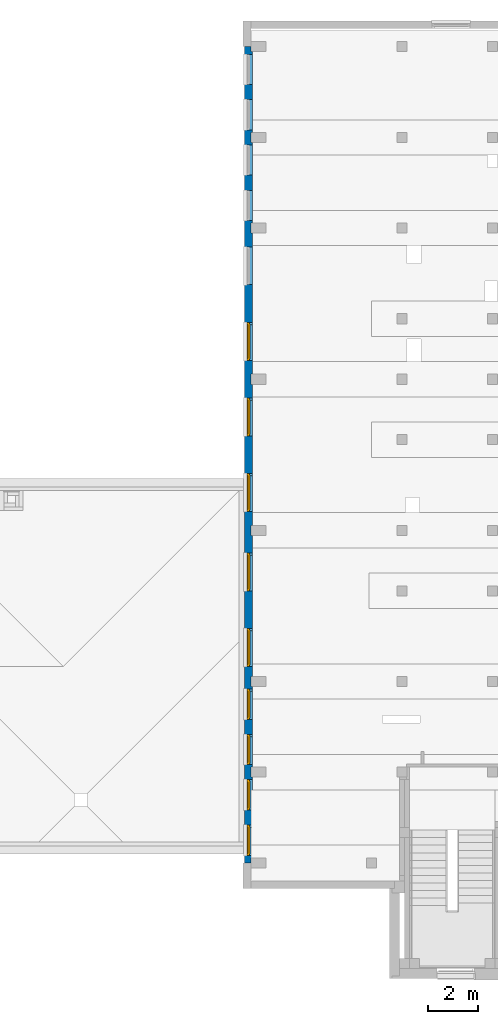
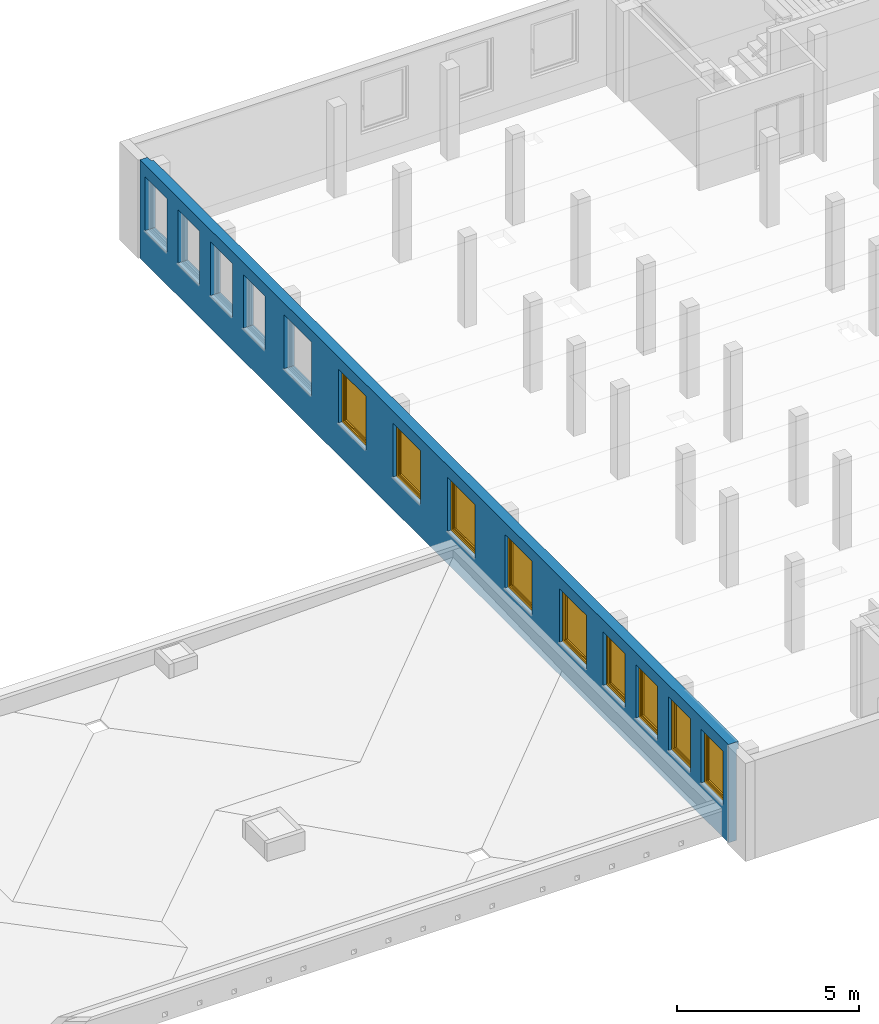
# One storey, part 9 of 27: 9 windows, 1 wall, 14 openings.
"""IFC4 building model written with IfcOpenShell, lengths in metres."""

from ifc_helpers import new_model, entity, si_unit, converted_unit, derived_unit, frame, origin, origin_with_axes, place, context, subcontext, project, spatial, polyline, outline, extrude, clip, bounded_halfspace, closed_shell, open_shell, surface_model, source, transform, mapped, material, layer, layer_set, layer_usage, element, fill, save


model = new_model("IFC4")

# Units and contexts
model_context = context("Model", 3, precision=1e-05, world=origin())
body_context = subcontext(model_context, "Body", "Model", "MODEL_VIEW")
ifc_project = project(units=[si_unit("LENGTHUNIT", "METRE"), si_unit("AREAUNIT", "SQUARE_METRE"), si_unit("VOLUMEUNIT", "CUBIC_METRE"), si_unit("MASSUNIT", "GRAM", prefix="KILO"), converted_unit("PLANEANGLEUNIT", "DEGREE", entity("IfcPlaneAngleMeasure", 0.0174532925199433), si_unit("PLANEANGLEUNIT", "RADIAN"), dimensions=[0, 0, 0, 0, 0, 0, 0]), derived_unit("THERMALTRANSMITTANCEUNIT", [(si_unit("POWERUNIT", "WATT"), 1), (si_unit("THERMODYNAMICTEMPERATUREUNIT", "KELVIN"), -1), (si_unit("LENGTHUNIT", "METRE"), -2)]), derived_unit("VOLUMETRICFLOWRATEUNIT", [(si_unit("LENGTHUNIT", "METRE"), 3), (converted_unit("TIMEUNIT", "hour", entity("IfcTimeMeasure", 3600.0), si_unit("TIMEUNIT", "SECOND"), dimensions=[0, 0, 1, 0, 0, 0, 0]), -1), (si_unit("LENGTHUNIT", "METRE"), -1)])], contexts=[model_context])

# Site, building, storey
site_placement = place(None, origin())
site = spatial("IfcSite", under=ifc_project, at=site_placement, Name="3. ASŘ", CompositionType="ELEMENT")
building_placement = place(site_placement, origin())
building = spatial("IfcBuilding", under=site, at=building_placement, Name="Pavilon C", CompositionType="ELEMENT")
storey_placement = place(building_placement, frame((0.0, 0.0, 7.2)))
storey = spatial("IfcBuildingStorey", under=building, at=storey_placement, Name="Půdorys 3.NP", CompositionType="ELEMENT", Elevation=7.2)

# Wall, openings, windows
ifc_material = material(Name="ZELEZOBETONOVÁ KCE")
ifc_layer = layer(ifc_material, 0.32)
ifc_layer_set = layer_set([ifc_layer])
ifc_layer_usage = layer_usage(ifc_layer_set, "AXIS2", "POSITIVE", 0.0)
wall_placement = place(storey_placement, frame((24.5, 32.4, -0.1), z_axis=(0.0, 0.0, 1.0), x_axis=(-2.24566593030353e-16, -1.0, 0.0)))
wall = element("IfcWall", 1, at=wall_placement, inside=storey, material=ifc_layer_usage, Name="ZELEZOBETONOVÁ KCE", context=body_context, shape_type="Clipping", body=[
    clip(clip(clip(clip(clip(clip(clip(extrude(outline(polyline([(-32.4, 0.0), (-7.18613097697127e-17, -1.61376495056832e-32), (-7.18613097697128e-17, 0.32), (-32.2, 0.32), (-32.2, 0.25), (-32.4, 0.25), (-32.4, 0.0)])), frame((32.4, 0.0, 0.0), z_axis=(0.0, 0.0, 1.0), x_axis=(1.0, 0.0, 0.0)), (0.0, 0.0, 1.0), 3.3), bounded_halfspace(frame((7.2, 0.285000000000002, 3.05), z_axis=(0.0, 0.0, 1.0), x_axis=(2.24566593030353e-16, -1.0, 0.0)), True, origin_with_axes(), polyline([(7.0, 0.320000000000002), (7.0, 0.250000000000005), (7.4, 0.250000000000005), (7.4, 0.320000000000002), (7.0, 0.320000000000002)]))), bounded_halfspace(frame((3.6, 0.285000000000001, 3.05), z_axis=(0.0, 0.0, 1.0), x_axis=(2.24566593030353e-16, -1.0, 0.0)), True, origin_with_axes(), polyline([(3.4, 0.320000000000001), (3.4, 0.250000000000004), (3.8, 0.250000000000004), (3.8, 0.320000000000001), (3.4, 0.320000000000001)]))), bounded_halfspace(frame((19.2, 0.285000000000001, 3.05), z_axis=(0.0, 0.0, 1.0), x_axis=(2.24566593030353e-16, -1.0, 0.0)), True, origin_with_axes(), polyline([(19.0, 0.320000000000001), (19.0, 0.249999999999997), (19.4, 0.249999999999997), (19.4, 0.320000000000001), (19.0, 0.320000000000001)]))), bounded_halfspace(frame((25.2, 0.284999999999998, 3.05), z_axis=(0.0, 0.0, 1.0), x_axis=(2.24566593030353e-16, -1.0, 0.0)), True, origin_with_axes(), polyline([(25.0, 0.319999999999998), (25.0, 0.249999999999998), (25.4, 0.249999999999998), (25.4, 0.319999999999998), (25.0, 0.319999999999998)]))), bounded_halfspace(frame((28.8, 0.284999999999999, 3.05), z_axis=(0.0, 0.0, 1.0), x_axis=(2.24566593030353e-16, -1.0, 0.0)), True, origin_with_axes(), polyline([(28.6, 0.319999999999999), (28.6, 0.249999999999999), (29.0, 0.249999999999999), (29.0, 0.319999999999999), (28.6, 0.319999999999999)]))), bounded_halfspace(frame((32.3, 0.285, 3.05), z_axis=(0.0, 0.0, 1.0), x_axis=(2.24566593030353e-16, -1.0, 0.0)), True, origin_with_axes(), polyline([(32.2, 0.32), (32.2, 0.25), (32.4, 0.25), (32.4, 0.32), (32.2, 0.32)]))), bounded_halfspace(frame((13.2, 0.285000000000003, 3.05), z_axis=(0.0, 0.0, 1.0), x_axis=(2.24566593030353e-16, -1.0, 0.0)), True, origin_with_axes(), polyline([(13.0, 0.319999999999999), (13.0, 0.250000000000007), (13.4, 0.250000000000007), (13.4, 0.319999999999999), (13.0, 0.319999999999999)]))),
])
opening_1_placement = place(wall_placement, frame((25.5, -1.54950949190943e-15, 1.1), z_axis=(0.0, 1.0, 0.0), x_axis=(0.0, 0.0, 1.0)))
opening_1 = element("IfcOpeningElement", 2, at=opening_1_placement, cuts=wall, Name="Okenní otvor", ObjectType="Opening", context=body_context, shape_type="SweptSolid", body=[
    extrude(outline(polyline([(0.0, 1.2), (1.8, 1.2), (1.8, 0.0), (0.0, 0.0), (0.0, 1.2)])), origin_with_axes(), (0.0, 0.0, 1.0), 0.32),
])
opening_2_placement = place(wall_placement, frame((27.3, -1.1452896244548e-15, 1.1), z_axis=(0.0, 1.0, 0.0), x_axis=(0.0, 0.0, 1.0)))
opening_2 = element("IfcOpeningElement", 3, at=opening_2_placement, cuts=wall, Name="Okenní otvor", ObjectType="Opening", context=body_context, shape_type="SweptSolid", body=[
    extrude(outline(polyline([(0.0, 1.2), (1.8, 1.2), (1.8, 0.0), (0.0, 0.0), (0.0, 1.2)])), origin_with_axes(), (0.0, 0.0, 1.0), 0.32),
])
opening_3_placement = place(wall_placement, frame((29.1, -7.41069757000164e-16, 1.1), z_axis=(0.0, 1.0, 0.0), x_axis=(0.0, 0.0, 1.0)))
opening_3 = element("IfcOpeningElement", 4, at=opening_3_placement, cuts=wall, Name="Okenní otvor", ObjectType="Opening", context=body_context, shape_type="SweptSolid", body=[
    extrude(outline(polyline([(0.0, 1.2), (1.8, 1.2), (1.8, 0.0), (0.0, 0.0), (0.0, 1.2)])), origin_with_axes(), (0.0, 0.0, 1.0), 0.32),
])
opening_4_placement = place(wall_placement, frame((30.9, -3.36849889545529e-16, 1.1), z_axis=(0.0, 1.0, 0.0), x_axis=(0.0, 0.0, 1.0)))
opening_4 = element("IfcOpeningElement", 5, at=opening_4_placement, cuts=wall, Name="Okenní otvor", ObjectType="Opening", context=body_context, shape_type="SweptSolid", body=[
    extrude(outline(polyline([(0.0, 1.2), (1.8, 1.2), (1.8, 0.0), (0.0, 0.0), (0.0, 1.2)])), origin_with_axes(), (0.0, 0.0, 1.0), 0.32),
])
opening_5_placement = place(wall_placement, frame((13.95, -5.05274834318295e-16, 1.1), z_axis=(0.0, 1.0, 0.0), x_axis=(0.0, 0.0, 1.0)))
opening_5 = element("IfcOpeningElement", 6, at=opening_5_placement, cuts=wall, Name="Okenní otvor", ObjectType="Opening", context=body_context, shape_type="SweptSolid", body=[
    extrude(outline(polyline([(0.0, 1.5), (1.8, 1.5), (1.8, 0.0), (0.0, 0.0), (0.0, 1.5)])), origin_with_axes(), (0.0, 0.0, 1.0), 0.32),
])
opening_6_placement = place(wall_placement, frame((10.95, -1.17897461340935e-15, 1.1), z_axis=(0.0, 1.0, 0.0), x_axis=(0.0, 0.0, 1.0)))
opening_6 = element("IfcOpeningElement", 7, at=opening_6_placement, cuts=wall, Name="Okenní otvor", ObjectType="Opening", context=body_context, shape_type="SweptSolid", body=[
    extrude(outline(polyline([(0.0, 1.5), (1.8, 1.5), (1.8, 0.0), (0.0, 0.0), (0.0, 1.5)])), origin_with_axes(), (0.0, 0.0, 1.0), 0.32),
])
opening_7_placement = place(wall_placement, frame((16.95, 1.68424944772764e-16, 1.1), z_axis=(0.0, 1.0, 0.0), x_axis=(0.0, 0.0, 1.0)))
opening_7 = element("IfcOpeningElement", 8, at=opening_7_placement, cuts=wall, Name="Okenní otvor", ObjectType="Opening", context=body_context, shape_type="SweptSolid", body=[
    extrude(outline(polyline([(0.0, 1.5), (1.8, 1.5), (1.8, 0.0), (0.0, 0.0), (0.0, 1.5)])), origin_with_axes(), (0.0, 0.0, 1.0), 0.32),
])
opening_8_placement = place(wall_placement, frame((20.1, 8.75809712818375e-16, 1.1), z_axis=(0.0, 1.0, 0.0), x_axis=(0.0, 0.0, 1.0)))
opening_8 = element("IfcOpeningElement", 9, at=opening_8_placement, cuts=wall, Name="Okenní otvor", ObjectType="Opening", context=body_context, shape_type="SweptSolid", body=[
    extrude(outline(polyline([(0.0, 1.5), (1.8, 1.5), (1.8, 0.0), (0.0, 0.0), (0.0, 1.5)])), origin_with_axes(), (0.0, 0.0, 1.0), 0.32),
])
opening_9_placement = place(wall_placement, frame((23.1, -2.08846931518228e-15, 1.1), z_axis=(0.0, 1.0, 0.0), x_axis=(0.0, 0.0, 1.0)))
opening_9 = element("IfcOpeningElement", 10, at=opening_9_placement, cuts=wall, Name="Okenní otvor", ObjectType="Opening", context=body_context, shape_type="SweptSolid", body=[
    extrude(outline(polyline([(0.0, 1.5), (1.8, 1.5), (1.8, 0.0), (0.0, 0.0), (0.0, 1.5)])), origin_with_axes(), (0.0, 0.0, 1.0), 0.320000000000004),
])
opening_10_placement = place(wall_placement, frame((7.95, -1.85267439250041e-15, 1.1), z_axis=(0.0, 1.0, 0.0), x_axis=(0.0, 0.0, 1.0)))
element("IfcOpeningElement", 11, at=opening_10_placement, cuts=wall, Name="Okenní otvor", ObjectType="Opening", context=body_context, shape_type="SweptSolid", body=[
    extrude(outline(polyline([(0.0, 1.5), (1.8, 1.5), (1.8, 0.0), (0.0, 0.0), (0.0, 1.5)])), origin_with_axes(), (0.0, 0.0, 1.0), 0.320000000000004),
])
opening_11_placement = place(wall_placement, frame((2.10000000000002, 4.71589845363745e-16, 1.1), z_axis=(0.0, 1.0, 0.0), x_axis=(0.0, 0.0, 1.0)))
element("IfcOpeningElement", 12, at=opening_11_placement, cuts=wall, Name="Okenní otvor", ObjectType="Opening", context=body_context, shape_type="SweptSolid", body=[
    extrude(outline(polyline([(0.0, 1.2), (1.8, 1.2), (1.8, 0.0), (0.0, 0.0), (0.0, 1.2)])), origin_with_axes(), (0.0, 0.0, 1.0), 0.32),
])
opening_12_placement = place(wall_placement, frame((3.90000000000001, 8.75809712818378e-16, 1.1), z_axis=(0.0, 1.0, 0.0), x_axis=(0.0, 0.0, 1.0)))
element("IfcOpeningElement", 13, at=opening_12_placement, cuts=wall, Name="Okenní otvor", ObjectType="Opening", context=body_context, shape_type="SweptSolid", body=[
    extrude(outline(polyline([(0.0, 1.2), (1.8, 1.2), (1.8, 0.0), (0.0, 0.0), (0.0, 1.2)])), origin_with_axes(), (0.0, 0.0, 1.0), 0.32),
])
opening_13_placement = place(wall_placement, frame((5.7, 1.28002958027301e-15, 1.1), z_axis=(0.0, 1.0, 0.0), x_axis=(0.0, 0.0, 1.0)))
element("IfcOpeningElement", 14, at=opening_13_placement, cuts=wall, Name="Okenní otvor", ObjectType="Opening", context=body_context, shape_type="SweptSolid", body=[
    extrude(outline(polyline([(0.0, 1.2), (1.8, 1.2), (1.8, 0.0), (0.0, 0.0), (0.0, 1.2)])), origin_with_axes(), (0.0, 0.0, 1.0), 0.32),
])
opening_14_placement = place(wall_placement, frame((0.300000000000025, 6.73699779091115e-17, 1.1), z_axis=(-1.77635683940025e-16, 1.0, 0.0), x_axis=(0.0, 0.0, 1.0)))
element("IfcOpeningElement", 15, at=opening_14_placement, cuts=wall, Name="Okenní otvor", ObjectType="Opening", context=body_context, shape_type="SweptSolid", body=[
    extrude(outline(polyline([(0.0, 1.2), (1.8, 1.2), (1.8, 0.0), (0.0, 0.0), (0.0, 1.2)])), origin_with_axes(), (0.0, 0.0, 1.0), 0.32),
])
shared_shape_1 = source(origin_with_axes(), body_context, "Body", "SurfaceModel", [
    surface_model("IfcShellBasedSurfaceModel", [(0.0, 0.182, 1.8), (0.0, 0.182, -5.63337527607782e-18), (0.08, 0.182, -5.63337527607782e-18), (0.08, 0.182, 1.8), (0.0, 0.0899999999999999, 5.63337527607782e-18), (0.0, 0.0900000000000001, 1.8), (0.08, 0.0900000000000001, 1.8), (0.08, 0.0899999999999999, 5.63337527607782e-18)], [closed_shell([[[0, 1, 2, 3]], [[4, 5, 6, 7]], [[1, 0, 5, 4]], [[2, 1, 4, 7]], [[3, 2, 7, 6]], [[0, 3, 6, 5]]], orient=[[False], [False], [False], [False], [False], [False]])]),
    surface_model("IfcShellBasedSurfaceModel", [(1.12, 0.182, 1.8), (1.12, 0.182, -5.63337527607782e-18), (1.2, 0.182, -5.63337527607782e-18), (1.2, 0.182, 1.8), (1.12, 0.0899999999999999, 5.63337527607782e-18), (1.12, 0.0900000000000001, 1.8), (1.2, 0.0900000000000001, 1.8), (1.2, 0.0899999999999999, 5.63337527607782e-18)], [closed_shell([[[0, 1, 2, 3]], [[4, 5, 6, 7]], [[1, 0, 5, 4]], [[2, 1, 4, 7]], [[3, 2, 7, 6]], [[0, 3, 6, 5]]], orient=[[False], [False], [False], [False], [False], [False]])]),
    surface_model("IfcShellBasedSurfaceModel", [(0.08, 0.182, 0.08), (0.08, 0.182, -5.63337527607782e-18), (1.12, 0.182, -5.63337527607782e-18), (1.12, 0.182, 0.08), (0.08, 0.0899999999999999, 5.63337527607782e-18), (0.08, 0.0899999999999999, 0.08), (1.12, 0.0899999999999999, 0.08), (1.12, 0.0899999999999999, 5.63337527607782e-18)], [closed_shell([[[0, 1, 2, 3]], [[4, 5, 6, 7]], [[1, 0, 5, 4]], [[2, 1, 4, 7]], [[3, 2, 7, 6]], [[0, 3, 6, 5]]], orient=[[False], [False], [False], [False], [False], [False]])]),
    surface_model("IfcShellBasedSurfaceModel", [(0.08, 0.182, 1.8), (0.08, 0.182, 1.72), (1.12, 0.182, 1.72), (1.12, 0.182, 1.8), (0.08, 0.0900000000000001, 1.72), (0.08, 0.0900000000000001, 1.8), (1.12, 0.0900000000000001, 1.8), (1.12, 0.0900000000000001, 1.72)], [closed_shell([[[0, 1, 2, 3]], [[4, 5, 6, 7]], [[1, 0, 5, 4]], [[2, 1, 4, 7]], [[3, 2, 7, 6]], [[0, 3, 6, 5]]], orient=[[False], [False], [False], [False], [False], [False]])]),
    surface_model("IfcShellBasedSurfaceModel", [(0.05, 0.145, 1.75), (0.05, 0.145, 0.05), (0.13, 0.145, 0.05), (0.13, 0.145, 1.75), (0.05, 0.0599999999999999, 0.05), (0.05, 0.0600000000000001, 1.75), (0.13, 0.0600000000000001, 1.75), (0.13, 0.0599999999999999, 0.05)], [closed_shell([[[0, 1, 2, 3]], [[4, 5, 6, 7]], [[1, 0, 5, 4]], [[2, 1, 4, 7]], [[3, 2, 7, 6]], [[0, 3, 6, 5]]], orient=[[False], [False], [False], [False], [False], [False]])]),
    surface_model("IfcShellBasedSurfaceModel", [(1.07, 0.145, 1.75), (1.07, 0.145, 0.05), (1.15, 0.145, 0.05), (1.15, 0.145, 1.75), (1.07, 0.0599999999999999, 0.05), (1.07, 0.0600000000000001, 1.75), (1.15, 0.0600000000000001, 1.75), (1.15, 0.0599999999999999, 0.05)], [closed_shell([[[0, 1, 2, 3]], [[4, 5, 6, 7]], [[1, 0, 5, 4]], [[2, 1, 4, 7]], [[3, 2, 7, 6]], [[0, 3, 6, 5]]], orient=[[False], [False], [False], [False], [False], [False]])]),
    surface_model("IfcShellBasedSurfaceModel", [(0.13, 0.145, 0.13), (0.13, 0.145, 0.05), (1.07, 0.145, 0.05), (1.07, 0.145, 0.13), (0.13, 0.0599999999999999, 0.05), (0.13, 0.0599999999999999, 0.13), (1.07, 0.0599999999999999, 0.13), (1.07, 0.0599999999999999, 0.05)], [closed_shell([[[0, 1, 2, 3]], [[4, 5, 6, 7]], [[1, 0, 5, 4]], [[2, 1, 4, 7]], [[3, 2, 7, 6]], [[0, 3, 6, 5]]], orient=[[False], [False], [False], [False], [False], [False]])]),
    surface_model("IfcShellBasedSurfaceModel", [(0.13, 0.145, 1.75), (0.13, 0.145, 1.67), (1.07, 0.145, 1.67), (1.07, 0.145, 1.75), (0.13, 0.0600000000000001, 1.67), (0.13, 0.0600000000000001, 1.75), (1.07, 0.0600000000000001, 1.75), (1.07, 0.0600000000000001, 1.67)], [closed_shell([[[0, 1, 2, 3]], [[4, 5, 6, 7]], [[1, 0, 5, 4]], [[2, 1, 4, 7]], [[3, 2, 7, 6]], [[0, 3, 6, 5]]], orient=[[False], [False], [False], [False], [False], [False]])]),
    surface_model("IfcShellBasedSurfaceModel", [(1.0975, 0.06, 0.92), (1.0975, 0.06, 0.88), (1.1225, 0.06, 0.88), (1.1225, 0.06, 0.92), (1.0975, 0.05, 0.88), (1.0975, 0.05, 0.92), (1.1225, 0.05, 0.92), (1.1225, 0.05, 0.88)], [closed_shell([[[0, 1, 2, 3]], [[4, 5, 6, 7]], [[1, 0, 5, 4]], [[2, 1, 4, 7]], [[3, 2, 7, 6]], [[0, 3, 6, 5]]], orient=[[False], [False], [False], [False], [False], [False]])]),
    surface_model("IfcShellBasedSurfaceModel", [(1.12, 0.05, 0.9), (1.11866025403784, 0.05, 0.905), (1.115, 0.05, 0.908660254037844), (1.11, 0.05, 0.91), (1.105, 0.05, 0.908660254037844), (1.10133974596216, 0.05, 0.905), (1.1, 0.05, 0.9), (1.10133974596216, 0.05, 0.895), (1.105, 0.05, 0.891339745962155), (1.11, 0.05, 0.89), (1.115, 0.05, 0.891339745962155), (1.11866025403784, 0.05, 0.895), (1.12, 0.01, 0.9), (1.11866025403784, 0.00500000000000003, 0.905), (1.115, 0.00133974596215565, 0.908660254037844), (1.11, 2.8421709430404e-17, 0.91), (1.105, 0.00133974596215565, 0.908660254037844), (1.10133974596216, 0.00500000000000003, 0.905), (1.1, 0.01, 0.9), (1.10133974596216, 0.015, 0.895), (1.105, 0.0186602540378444, 0.891339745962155), (1.11, 0.02, 0.89), (1.115, 0.0186602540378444, 0.891339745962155), (1.11866025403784, 0.015, 0.895), (1.12, 0.01, 0.785), (1.11866025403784, 0.005, 0.785), (1.115, 0.00133974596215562, 0.785), (1.11, 0.0, 0.785), (1.105, 0.00133974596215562, 0.785), (1.10133974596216, 0.005, 0.785), (1.1, 0.01, 0.785), (1.10133974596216, 0.015, 0.785), (1.105, 0.0186602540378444, 0.785), (1.11, 0.02, 0.785), (1.115, 0.0186602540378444, 0.785), (1.11866025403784, 0.015, 0.785)], [open_shell([[[0, 1, 2, 3, 4, 5, 6, 7, 8, 9, 10, 11]], [[0, 12, 13, 1]], [[1, 13, 14, 2]], [[2, 14, 15, 3]], [[3, 15, 16, 4]], [[4, 16, 17, 5]], [[5, 17, 18, 6]], [[6, 18, 19, 7]], [[7, 19, 20, 8]], [[8, 20, 21, 9]], [[9, 21, 22, 10]], [[10, 22, 23, 11]], [[11, 23, 12, 0]], [[12, 24, 25, 13]], [[13, 25, 26, 14]], [[14, 26, 27, 15]], [[15, 27, 28, 16]], [[16, 28, 29, 17]], [[17, 29, 30, 18]], [[18, 30, 31, 19]], [[19, 31, 32, 20]], [[20, 32, 33, 21]], [[21, 33, 34, 22]], [[22, 34, 35, 23]], [[23, 35, 24, 12]]], orient=[[False], [False], [False], [False], [False], [False], [False], [False], [False], [False], [False], [False], [False], [False], [False], [False], [False], [False], [False], [False], [False], [False], [False], [False], [False]])]),
    surface_model("IfcShellBasedSurfaceModel", [(0.13, 0.1025, 0.13), (1.07, 0.1025, 0.13), (1.07, 0.1025, 1.67), (0.13, 0.1025, 1.67)], [open_shell([[[0, 1, 2, 3]]], orient=[[False]])]),
])
window_1_placement = place(opening_1_placement, frame((0.0, 1.20000000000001, 0.281999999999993), z_axis=(1.0, 0.0, 0.0), x_axis=(0.0, -1.0, -1.02101913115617e-16)))
window_1 = element("IfcWindow", 16, at=window_1_placement, inside=storey, Name="O06", OverallHeight=1.8, OverallWidth=1.2, PartitioningType="USERDEFINED", PredefinedType="WINDOW", context=body_context, shape_type="MappedRepresentation", body=[
    mapped(shared_shape_1, transform((0.0, 0.0, 0.0), x_axis=(1.0, 0.0, 0.0), y_axis=(0.0, 1.0, 0.0), z_axis=(0.0, 0.0, 1.0), scale=1.0)),
])
fill(opening_1, window_1)
window_2_placement = place(opening_2_placement, frame((0.0, 1.2, 0.281999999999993), z_axis=(1.0, 0.0, 0.0), x_axis=(0.0, -1.0, -1.02101913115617e-16)))
window_2 = element("IfcWindow", 17, at=window_2_placement, inside=storey, Name="O06", OverallHeight=1.8, OverallWidth=1.2, PartitioningType="USERDEFINED", PredefinedType="WINDOW", context=body_context, shape_type="MappedRepresentation", body=[
    mapped(shared_shape_1, transform((0.0, 0.0, 0.0), x_axis=(1.0, 0.0, 0.0), y_axis=(0.0, 1.0, 0.0), z_axis=(0.0, 0.0, 1.0), scale=1.0)),
])
fill(opening_2, window_2)
window_3_placement = place(opening_3_placement, frame((0.0, 1.2, 0.281999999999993), z_axis=(1.0, 0.0, 0.0), x_axis=(0.0, -1.0, -1.02101913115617e-16)))
window_3 = element("IfcWindow", 18, at=window_3_placement, inside=storey, Name="O06", OverallHeight=1.8, OverallWidth=1.2, PartitioningType="USERDEFINED", PredefinedType="WINDOW", context=body_context, shape_type="MappedRepresentation", body=[
    mapped(shared_shape_1, transform((0.0, 0.0, 0.0), x_axis=(1.0, 0.0, 0.0), y_axis=(0.0, 1.0, 0.0), z_axis=(0.0, 0.0, 1.0), scale=1.0)),
])
fill(opening_3, window_3)
window_4_placement = place(opening_4_placement, frame((0.0, 1.2, 0.281999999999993), z_axis=(1.0, 0.0, 0.0), x_axis=(0.0, -1.0, -1.02101913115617e-16)))
window_4 = element("IfcWindow", 19, at=window_4_placement, inside=storey, Name="O06", OverallHeight=1.8, OverallWidth=1.2, PartitioningType="USERDEFINED", PredefinedType="WINDOW", context=body_context, shape_type="MappedRepresentation", body=[
    mapped(shared_shape_1, transform((0.0, 0.0, 0.0), x_axis=(1.0, 0.0, 0.0), y_axis=(0.0, 1.0, 0.0), z_axis=(0.0, 0.0, 1.0), scale=1.0)),
])
fill(opening_4, window_4)
shared_shape_2 = source(origin_with_axes(), body_context, "Body", "SurfaceModel", [
    surface_model("IfcShellBasedSurfaceModel", [(0.0, 0.182, 1.8), (0.0, 0.182, -5.63337527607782e-18), (0.08, 0.182, -5.63337527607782e-18), (0.08, 0.182, 1.8), (0.0, 0.0899999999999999, 5.63337527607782e-18), (0.0, 0.0900000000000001, 1.8), (0.08, 0.0900000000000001, 1.8), (0.08, 0.0899999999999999, 5.63337527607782e-18)], [closed_shell([[[0, 1, 2, 3]], [[4, 5, 6, 7]], [[1, 0, 5, 4]], [[2, 1, 4, 7]], [[3, 2, 7, 6]], [[0, 3, 6, 5]]], orient=[[False], [False], [False], [False], [False], [False]])]),
    surface_model("IfcShellBasedSurfaceModel", [(1.42, 0.182, 1.8), (1.42, 0.182, -5.63337527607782e-18), (1.5, 0.182, -5.63337527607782e-18), (1.5, 0.182, 1.8), (1.42, 0.0899999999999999, 5.63337527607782e-18), (1.42, 0.0900000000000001, 1.8), (1.5, 0.0900000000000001, 1.8), (1.5, 0.0899999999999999, 5.63337527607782e-18)], [closed_shell([[[0, 1, 2, 3]], [[4, 5, 6, 7]], [[1, 0, 5, 4]], [[2, 1, 4, 7]], [[3, 2, 7, 6]], [[0, 3, 6, 5]]], orient=[[False], [False], [False], [False], [False], [False]])]),
    surface_model("IfcShellBasedSurfaceModel", [(0.08, 0.182, 0.08), (0.08, 0.182, -5.63337527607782e-18), (1.42, 0.182, -5.63337527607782e-18), (1.42, 0.182, 0.08), (0.08, 0.0899999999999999, 5.63337527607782e-18), (0.08, 0.0899999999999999, 0.08), (1.42, 0.0899999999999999, 0.08), (1.42, 0.0899999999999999, 5.63337527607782e-18)], [closed_shell([[[0, 1, 2, 3]], [[4, 5, 6, 7]], [[1, 0, 5, 4]], [[2, 1, 4, 7]], [[3, 2, 7, 6]], [[0, 3, 6, 5]]], orient=[[False], [False], [False], [False], [False], [False]])]),
    surface_model("IfcShellBasedSurfaceModel", [(0.08, 0.182, 1.8), (0.08, 0.182, 1.72), (1.42, 0.182, 1.72), (1.42, 0.182, 1.8), (0.08, 0.0900000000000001, 1.72), (0.08, 0.0900000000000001, 1.8), (1.42, 0.0900000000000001, 1.8), (1.42, 0.0900000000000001, 1.72)], [closed_shell([[[0, 1, 2, 3]], [[4, 5, 6, 7]], [[1, 0, 5, 4]], [[2, 1, 4, 7]], [[3, 2, 7, 6]], [[0, 3, 6, 5]]], orient=[[False], [False], [False], [False], [False], [False]])]),
    surface_model("IfcShellBasedSurfaceModel", [(0.05, 0.145, 1.75), (0.05, 0.145, 0.05), (0.13, 0.145, 0.05), (0.13, 0.145, 1.75), (0.05, 0.0599999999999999, 0.05), (0.05, 0.0600000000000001, 1.75), (0.13, 0.0600000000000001, 1.75), (0.13, 0.0599999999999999, 0.05)], [closed_shell([[[0, 1, 2, 3]], [[4, 5, 6, 7]], [[1, 0, 5, 4]], [[2, 1, 4, 7]], [[3, 2, 7, 6]], [[0, 3, 6, 5]]], orient=[[False], [False], [False], [False], [False], [False]])]),
    surface_model("IfcShellBasedSurfaceModel", [(1.37, 0.145, 1.75), (1.37, 0.145, 0.05), (1.45, 0.145, 0.05), (1.45, 0.145, 1.75), (1.37, 0.0599999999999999, 0.05), (1.37, 0.0600000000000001, 1.75), (1.45, 0.0600000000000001, 1.75), (1.45, 0.0599999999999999, 0.05)], [closed_shell([[[0, 1, 2, 3]], [[4, 5, 6, 7]], [[1, 0, 5, 4]], [[2, 1, 4, 7]], [[3, 2, 7, 6]], [[0, 3, 6, 5]]], orient=[[False], [False], [False], [False], [False], [False]])]),
    surface_model("IfcShellBasedSurfaceModel", [(0.13, 0.145, 0.13), (0.13, 0.145, 0.05), (1.37, 0.145, 0.05), (1.37, 0.145, 0.13), (0.13, 0.0599999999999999, 0.05), (0.13, 0.0599999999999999, 0.13), (1.37, 0.0599999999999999, 0.13), (1.37, 0.0599999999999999, 0.05)], [closed_shell([[[0, 1, 2, 3]], [[4, 5, 6, 7]], [[1, 0, 5, 4]], [[2, 1, 4, 7]], [[3, 2, 7, 6]], [[0, 3, 6, 5]]], orient=[[False], [False], [False], [False], [False], [False]])]),
    surface_model("IfcShellBasedSurfaceModel", [(0.13, 0.145, 1.75), (0.13, 0.145, 1.67), (1.37, 0.145, 1.67), (1.37, 0.145, 1.75), (0.13, 0.0600000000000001, 1.67), (0.13, 0.0600000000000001, 1.75), (1.37, 0.0600000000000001, 1.75), (1.37, 0.0600000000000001, 1.67)], [closed_shell([[[0, 1, 2, 3]], [[4, 5, 6, 7]], [[1, 0, 5, 4]], [[2, 1, 4, 7]], [[3, 2, 7, 6]], [[0, 3, 6, 5]]], orient=[[False], [False], [False], [False], [False], [False]])]),
    surface_model("IfcShellBasedSurfaceModel", [(1.3975, 0.06, 0.92), (1.3975, 0.06, 0.88), (1.4225, 0.06, 0.88), (1.4225, 0.06, 0.92), (1.3975, 0.05, 0.88), (1.3975, 0.05, 0.92), (1.4225, 0.05, 0.92), (1.4225, 0.05, 0.88)], [closed_shell([[[0, 1, 2, 3]], [[4, 5, 6, 7]], [[1, 0, 5, 4]], [[2, 1, 4, 7]], [[3, 2, 7, 6]], [[0, 3, 6, 5]]], orient=[[False], [False], [False], [False], [False], [False]])]),
    surface_model("IfcShellBasedSurfaceModel", [(1.42, 0.05, 0.9), (1.41866025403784, 0.05, 0.905), (1.415, 0.05, 0.908660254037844), (1.41, 0.05, 0.91), (1.405, 0.05, 0.908660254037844), (1.40133974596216, 0.05, 0.905), (1.4, 0.05, 0.9), (1.40133974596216, 0.05, 0.895), (1.405, 0.05, 0.891339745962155), (1.41, 0.05, 0.89), (1.415, 0.05, 0.891339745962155), (1.41866025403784, 0.05, 0.895), (1.42, 0.01, 0.9), (1.41866025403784, 0.00500000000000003, 0.905), (1.415, 0.00133974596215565, 0.908660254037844), (1.41, 2.8421709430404e-17, 0.91), (1.405, 0.00133974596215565, 0.908660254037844), (1.40133974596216, 0.00500000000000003, 0.905), (1.4, 0.01, 0.9), (1.40133974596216, 0.015, 0.895), (1.405, 0.0186602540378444, 0.891339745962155), (1.41, 0.02, 0.89), (1.415, 0.0186602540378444, 0.891339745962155), (1.41866025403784, 0.015, 0.895), (1.42, 0.01, 0.785), (1.41866025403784, 0.005, 0.785), (1.415, 0.00133974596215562, 0.785), (1.41, 0.0, 0.785), (1.405, 0.00133974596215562, 0.785), (1.40133974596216, 0.005, 0.785), (1.4, 0.01, 0.785), (1.40133974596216, 0.015, 0.785), (1.405, 0.0186602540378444, 0.785), (1.41, 0.02, 0.785), (1.415, 0.0186602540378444, 0.785), (1.41866025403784, 0.015, 0.785)], [open_shell([[[0, 1, 2, 3, 4, 5, 6, 7, 8, 9, 10, 11]], [[0, 12, 13, 1]], [[1, 13, 14, 2]], [[2, 14, 15, 3]], [[3, 15, 16, 4]], [[4, 16, 17, 5]], [[5, 17, 18, 6]], [[6, 18, 19, 7]], [[7, 19, 20, 8]], [[8, 20, 21, 9]], [[9, 21, 22, 10]], [[10, 22, 23, 11]], [[11, 23, 12, 0]], [[12, 24, 25, 13]], [[13, 25, 26, 14]], [[14, 26, 27, 15]], [[15, 27, 28, 16]], [[16, 28, 29, 17]], [[17, 29, 30, 18]], [[18, 30, 31, 19]], [[19, 31, 32, 20]], [[20, 32, 33, 21]], [[21, 33, 34, 22]], [[22, 34, 35, 23]], [[23, 35, 24, 12]]], orient=[[False], [False], [False], [False], [False], [False], [False], [False], [False], [False], [False], [False], [False], [False], [False], [False], [False], [False], [False], [False], [False], [False], [False], [False], [False]])]),
    surface_model("IfcShellBasedSurfaceModel", [(0.13, 0.1025, 0.13), (1.37, 0.1025, 0.13), (1.37, 0.1025, 1.67), (0.13, 0.1025, 1.67)], [open_shell([[[0, 1, 2, 3]]], orient=[[False]])]),
])
window_5_placement = place(opening_5_placement, frame((0.0, 1.50000000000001, 0.281999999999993), z_axis=(1.0, 0.0, 0.0), x_axis=(0.0, -1.0, -1.02101913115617e-16)))
window_5 = element("IfcWindow", 20, at=window_5_placement, inside=storey, Name="O06", OverallHeight=1.8, OverallWidth=1.5, PartitioningType="USERDEFINED", PredefinedType="WINDOW", context=body_context, shape_type="MappedRepresentation", body=[
    mapped(shared_shape_2, transform((0.0, 0.0, 0.0), x_axis=(1.0, 0.0, 0.0), y_axis=(0.0, 1.0, 0.0), z_axis=(0.0, 0.0, 1.0), scale=1.0)),
])
fill(opening_5, window_5)
window_6_placement = place(opening_6_placement, frame((0.0, 1.50000000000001, 0.281999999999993), z_axis=(1.0, 0.0, 0.0), x_axis=(0.0, -1.0, -1.02101913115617e-16)))
window_6 = element("IfcWindow", 21, at=window_6_placement, inside=storey, Name="O06", OverallHeight=1.8, OverallWidth=1.5, PartitioningType="USERDEFINED", PredefinedType="WINDOW", context=body_context, shape_type="MappedRepresentation", body=[
    mapped(shared_shape_2, transform((0.0, 0.0, 0.0), x_axis=(1.0, 0.0, 0.0), y_axis=(0.0, 1.0, 0.0), z_axis=(0.0, 0.0, 1.0), scale=1.0)),
])
fill(opening_6, window_6)
window_7_placement = place(opening_7_placement, frame((0.0, 1.50000000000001, 0.282), z_axis=(1.0, 0.0, 0.0), x_axis=(0.0, -1.0, -1.02101913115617e-16)))
window_7 = element("IfcWindow", 22, at=window_7_placement, inside=storey, Name="O06", OverallHeight=1.8, OverallWidth=1.5, PartitioningType="USERDEFINED", PredefinedType="WINDOW", context=body_context, shape_type="MappedRepresentation", body=[
    mapped(shared_shape_2, transform((0.0, 0.0, 0.0), x_axis=(1.0, 0.0, 0.0), y_axis=(0.0, 1.0, 0.0), z_axis=(0.0, 0.0, 1.0), scale=1.0)),
])
fill(opening_7, window_7)
window_8_placement = place(opening_8_placement, frame((0.0, 1.50000000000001, 0.281999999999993), z_axis=(1.0, 0.0, 0.0), x_axis=(0.0, -1.0, -1.02101913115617e-16)))
window_8 = element("IfcWindow", 23, at=window_8_placement, inside=storey, Name="O06", OverallHeight=1.8, OverallWidth=1.5, PartitioningType="USERDEFINED", PredefinedType="WINDOW", context=body_context, shape_type="MappedRepresentation", body=[
    mapped(shared_shape_2, transform((0.0, 0.0, 0.0), x_axis=(1.0, 0.0, 0.0), y_axis=(0.0, 1.0, 0.0), z_axis=(0.0, 0.0, 1.0), scale=1.0)),
])
fill(opening_8, window_8)
window_9_placement = place(opening_9_placement, frame((0.0, 1.5, 0.281999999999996), z_axis=(1.0, 0.0, 0.0), x_axis=(0.0, -0.999999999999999, -1.02101913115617e-16)))
window_9 = element("IfcWindow", 24, at=window_9_placement, inside=storey, Name="O06", OverallHeight=1.8, OverallWidth=1.5, PartitioningType="USERDEFINED", PredefinedType="WINDOW", context=body_context, shape_type="MappedRepresentation", body=[
    mapped(shared_shape_2, transform((0.0, 0.0, 0.0), x_axis=(1.0, 0.0, 0.0), y_axis=(0.0, 1.0, 0.0), z_axis=(0.0, 0.0, 1.0), scale=0.999999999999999)),
])
fill(opening_9, window_9)

save(model, "model.ifc")
